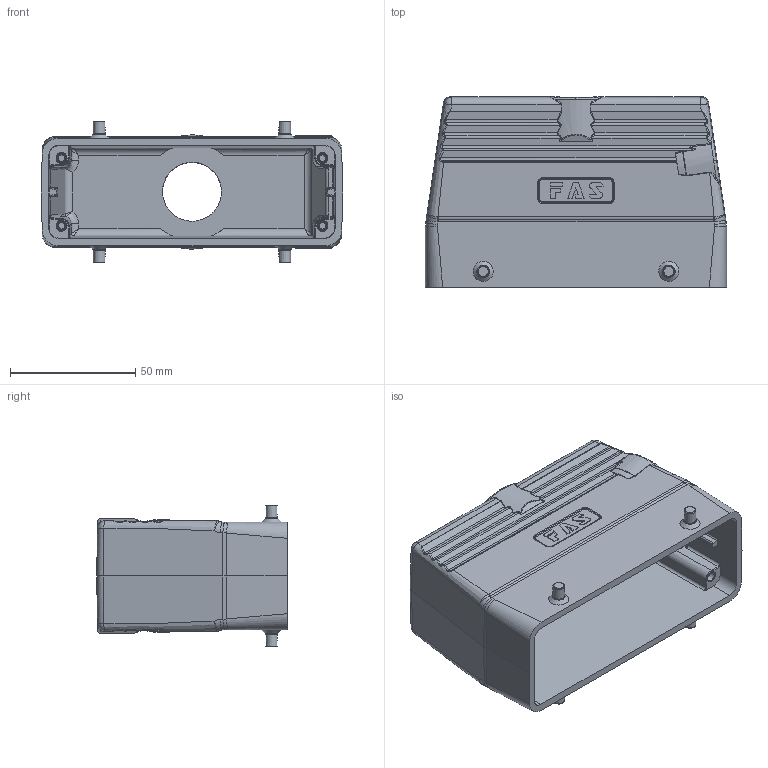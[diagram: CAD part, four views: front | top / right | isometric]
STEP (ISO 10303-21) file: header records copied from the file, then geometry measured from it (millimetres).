
FILE_DESCRIPTION (( 'STEP AP203' ), '1' );
FILE_NAME ('H24B-TGH-M25.STEP', '2023-06-13T06:19:40', ( '' ), ( '' ), 'SwSTEP 2.0', 'SolidWorks 2016', '' );
FILE_SCHEMA (( 'CONFIG_CONTROL_DESIGN' ));
Length unit declared in the file: millimetre
Products named in the file (1): H24B-TGH-M25
Bounding box: 120 x 76 x 56.4 mm (x, y, z)
Volume: 112128.3 mm3; surface area: 52510.6 mm2
Topology: 1 solids, 1 shells, 578 faces, 1490 edges, 935 vertices
Faces by surface type: bspline 198, cylinder 165, plane 146, cone 31, torus 26, sphere 12
Full cylindrical faces by diameter (mm): 23.5 x1
Entity records: 31757 total; most frequent: CARTESIAN_POINT 20530, ORIENTED_EDGE 2868, EDGE_CURVE 1434, DIRECTION 1430, VERTEX_POINT 913, B_SPLINE_CURVE_WITH_KNOTS 822, EDGE_LOOP 627, FACE_OUTER_BOUND 583
